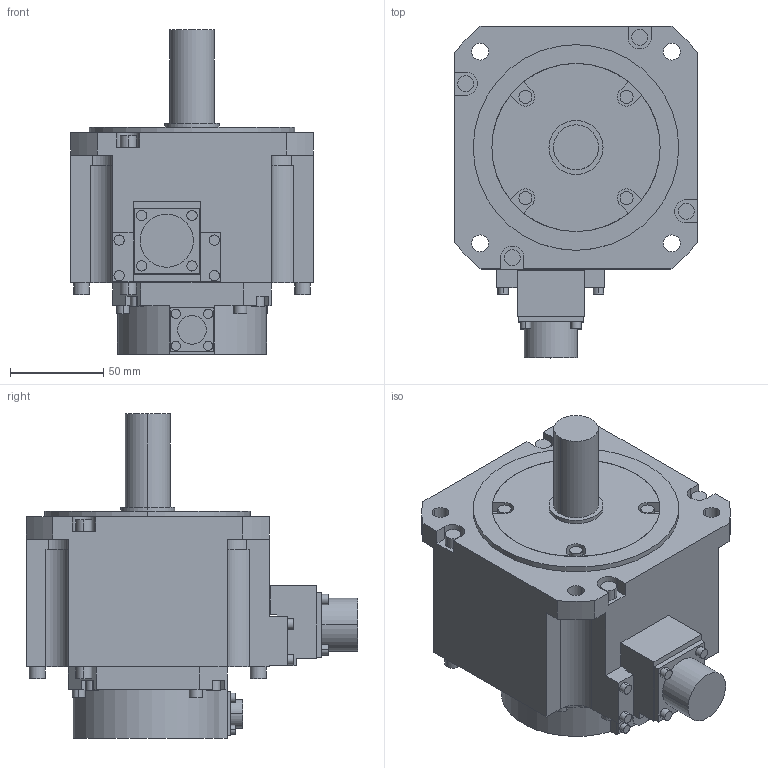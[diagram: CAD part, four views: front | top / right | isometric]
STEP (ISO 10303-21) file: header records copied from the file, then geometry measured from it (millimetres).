
FILE_DESCRIPTION((''),'2;1');
FILE_NAME('HF-SP52_B_IF0001','2010-04-01T',('QG77621'),(''),'PRO/ENGINEER BY PARAMETRIC TECHNOLOGY CORPORATION, 2006510','PRO/ENGINEER BY PARAMETRIC TECHNOLOGY CORPORATION, 2006510','');
FILE_SCHEMA(('CONFIG_CONTROL_DESIGN'));
Length unit declared in the file: millimetre
Products named in the file (1): HF-SP52_B_IF0001
Bounding box: 130 x 177.5 x 173.5 mm (x, y, z)
Volume: 1545593.3 mm3; surface area: 102841.9 mm2
Topology: 1 solids, 1 shells, 241 faces, 594 edges, 396 vertices
Faces by surface type: plane 132, cylinder 109
Entity records: 7248 total; most frequent: DIRECTION 1302, CARTESIAN_POINT 1231, ORIENTED_EDGE 1188, EDGE_CURVE 594, AXIS2_PLACEMENT_3D 467, VERTEX_POINT 396, VECTOR 368, LINE 368
